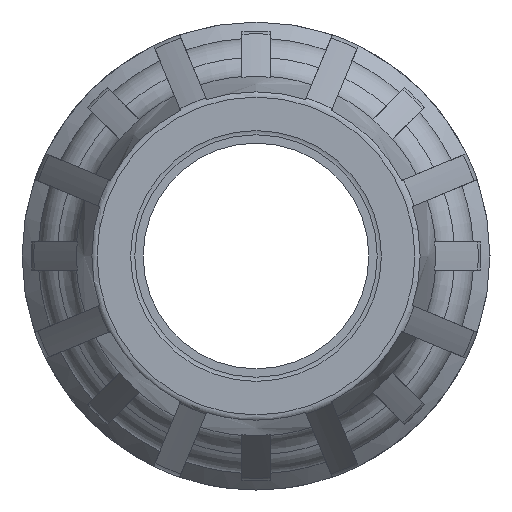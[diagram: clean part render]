
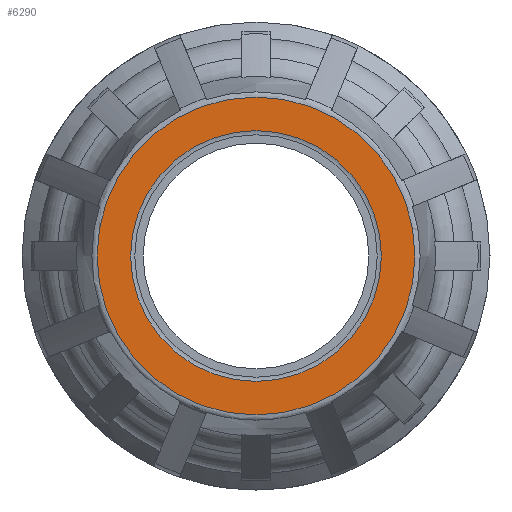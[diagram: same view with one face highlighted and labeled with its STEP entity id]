
A CAD part, left-side view. The second image highlights one B-rep face of the part: STEP entity #6290.
In plain terms, the highlighted planar face has unit normal (-1, 0, 0).
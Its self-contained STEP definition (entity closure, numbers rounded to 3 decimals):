
#90=PLANE('',#6960);
#2792=ORIENTED_EDGE('',*,*,#3977,.F.);
#2793=ORIENTED_EDGE('',*,*,#3994,.F.);
#3977=EDGE_CURVE('',#4711,#4711,#5048,.T.);
#3994=EDGE_CURVE('',#4712,#4712,#5065,.F.);
#4711=VERTEX_POINT('',#11846);
#4712=VERTEX_POINT('',#11881);
#5048=CIRCLE('',#6927,21.225);
#5065=CIRCLE('',#6961,16.75);
#5419=EDGE_LOOP('',(#2792));
#5420=EDGE_LOOP('',(#2793));
#5827=FACE_BOUND('',#5419,.T.);
#5828=FACE_BOUND('',#5420,.T.);
#6290=ADVANCED_FACE('',(#5827,#5828),#90,.F.);
#6927=AXIS2_PLACEMENT_3D('',#11845,#8311,#8312);
#6960=AXIS2_PLACEMENT_3D('',#11879,#8377,#8378);
#6961=AXIS2_PLACEMENT_3D('',#11880,#8379,#8380);
#8311=DIRECTION('',(1.,0.,0.));
#8312=DIRECTION('',(0.,0.,-1.));
#8377=DIRECTION('',(1.,0.,0.));
#8378=DIRECTION('',(0.,0.,-1.));
#8379=DIRECTION('',(1.,0.,0.));
#8380=DIRECTION('',(0.,0.,-1.));
#11845=CARTESIAN_POINT('',(0.,0.,0.));
#11846=CARTESIAN_POINT('',(0.,0.,-21.225));
#11879=CARTESIAN_POINT('',(0.,0.,0.));
#11880=CARTESIAN_POINT('',(0.,0.,0.));
#11881=CARTESIAN_POINT('',(0.,0.,-16.75));
